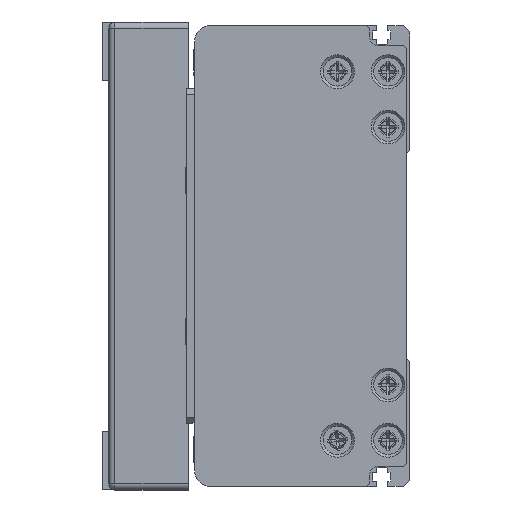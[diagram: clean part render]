
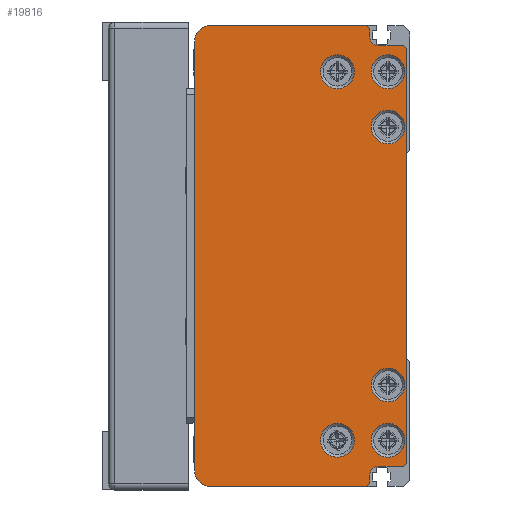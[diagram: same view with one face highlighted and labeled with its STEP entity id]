
A CAD part, left-side view. The second image highlights one B-rep face of the part: STEP entity #19816.
In plain terms, the highlighted planar face has unit normal (-1, 0, 0) as drawn and (0, 0, -1) by its records, which use the part's own axes.
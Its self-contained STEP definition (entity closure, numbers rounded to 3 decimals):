
#934=LINE('',#28642,#2599);
#935=LINE('',#28646,#2600);
#936=LINE('',#28648,#2601);
#937=LINE('',#28650,#2602);
#938=LINE('',#28654,#2603);
#939=LINE('',#28656,#2604);
#940=LINE('',#28658,#2605);
#941=LINE('',#28660,#2606);
#942=LINE('',#28662,#2607);
#943=LINE('',#28666,#2608);
#944=LINE('',#28668,#2609);
#945=LINE('',#28670,#2610);
#2599=VECTOR('',#23255,140.);
#2600=VECTOR('',#23258,51.);
#2601=VECTOR('',#23259,1.414);
#2602=VECTOR('',#23260,2.5);
#2603=VECTOR('',#23263,8.);
#2604=VECTOR('',#23264,1.414);
#2605=VECTOR('',#23265,135.);
#2606=VECTOR('',#23266,1.414);
#2607=VECTOR('',#23267,8.);
#2608=VECTOR('',#23270,2.5);
#2609=VECTOR('',#23271,1.414);
#2610=VECTOR('',#23272,51.);
#4217=PLANE('',#21174);
#4844=FACE_BOUND('',#6672,.T.);
#4845=FACE_BOUND('',#6673,.T.);
#4846=FACE_BOUND('',#6674,.T.);
#4847=FACE_BOUND('',#6675,.T.);
#4848=FACE_BOUND('',#6676,.T.);
#4849=FACE_BOUND('',#6677,.T.);
#5395=FACE_OUTER_BOUND('',#6671,.T.);
#6671=EDGE_LOOP('',(#13911,#13912,#13913,#13914,#13915,#13916,#13917,#13918,
#13919,#13920,#13921,#13922,#13923,#13924,#13925,#13926));
#6672=EDGE_LOOP('',(#13927));
#6673=EDGE_LOOP('',(#13928));
#6674=EDGE_LOOP('',(#13929));
#6675=EDGE_LOOP('',(#13930));
#6676=EDGE_LOOP('',(#13931));
#6677=EDGE_LOOP('',(#13932));
#8177=CIRCLE('',#21175,5.);
#8178=CIRCLE('',#21176,3.);
#8179=CIRCLE('',#21177,3.);
#8180=CIRCLE('',#21178,5.);
#8181=CIRCLE('',#21179,5.5);
#8182=CIRCLE('',#21180,5.5);
#8183=CIRCLE('',#21181,5.5);
#8184=CIRCLE('',#21182,5.5);
#8185=CIRCLE('',#21183,5.5);
#8186=CIRCLE('',#21184,5.5);
#8865=VERTEX_POINT('',#28640);
#8866=VERTEX_POINT('',#28641);
#8867=VERTEX_POINT('',#28643);
#8868=VERTEX_POINT('',#28645);
#8869=VERTEX_POINT('',#28647);
#8870=VERTEX_POINT('',#28649);
#8871=VERTEX_POINT('',#28651);
#8872=VERTEX_POINT('',#28653);
#8873=VERTEX_POINT('',#28655);
#8874=VERTEX_POINT('',#28657);
#8875=VERTEX_POINT('',#28659);
#8876=VERTEX_POINT('',#28661);
#8877=VERTEX_POINT('',#28663);
#8878=VERTEX_POINT('',#28665);
#8879=VERTEX_POINT('',#28667);
#8880=VERTEX_POINT('',#28669);
#8881=VERTEX_POINT('',#28672);
#8882=VERTEX_POINT('',#28674);
#8883=VERTEX_POINT('',#28676);
#8884=VERTEX_POINT('',#28678);
#8885=VERTEX_POINT('',#28680);
#8886=VERTEX_POINT('',#28682);
#10897=EDGE_CURVE('',#8865,#8866,#934,.T.);
#10898=EDGE_CURVE('',#8866,#8867,#8177,.T.);
#10899=EDGE_CURVE('',#8867,#8868,#935,.T.);
#10900=EDGE_CURVE('',#8868,#8869,#936,.T.);
#10901=EDGE_CURVE('',#8869,#8870,#937,.T.);
#10902=EDGE_CURVE('',#8870,#8871,#8178,.T.);
#10903=EDGE_CURVE('',#8871,#8872,#938,.T.);
#10904=EDGE_CURVE('',#8872,#8873,#939,.T.);
#10905=EDGE_CURVE('',#8873,#8874,#940,.T.);
#10906=EDGE_CURVE('',#8874,#8875,#941,.T.);
#10907=EDGE_CURVE('',#8875,#8876,#942,.T.);
#10908=EDGE_CURVE('',#8876,#8877,#8179,.T.);
#10909=EDGE_CURVE('',#8877,#8878,#943,.T.);
#10910=EDGE_CURVE('',#8878,#8879,#944,.T.);
#10911=EDGE_CURVE('',#8879,#8880,#945,.T.);
#10912=EDGE_CURVE('',#8880,#8865,#8180,.T.);
#10913=EDGE_CURVE('',#8881,#8881,#8181,.T.);
#10914=EDGE_CURVE('',#8882,#8882,#8182,.T.);
#10915=EDGE_CURVE('',#8883,#8883,#8183,.T.);
#10916=EDGE_CURVE('',#8884,#8884,#8184,.T.);
#10917=EDGE_CURVE('',#8885,#8885,#8185,.T.);
#10918=EDGE_CURVE('',#8886,#8886,#8186,.T.);
#13911=ORIENTED_EDGE('',*,*,#10897,.T.);
#13912=ORIENTED_EDGE('',*,*,#10898,.T.);
#13913=ORIENTED_EDGE('',*,*,#10899,.T.);
#13914=ORIENTED_EDGE('',*,*,#10900,.T.);
#13915=ORIENTED_EDGE('',*,*,#10901,.T.);
#13916=ORIENTED_EDGE('',*,*,#10902,.T.);
#13917=ORIENTED_EDGE('',*,*,#10903,.T.);
#13918=ORIENTED_EDGE('',*,*,#10904,.T.);
#13919=ORIENTED_EDGE('',*,*,#10905,.T.);
#13920=ORIENTED_EDGE('',*,*,#10906,.T.);
#13921=ORIENTED_EDGE('',*,*,#10907,.T.);
#13922=ORIENTED_EDGE('',*,*,#10908,.T.);
#13923=ORIENTED_EDGE('',*,*,#10909,.T.);
#13924=ORIENTED_EDGE('',*,*,#10910,.T.);
#13925=ORIENTED_EDGE('',*,*,#10911,.T.);
#13926=ORIENTED_EDGE('',*,*,#10912,.T.);
#13927=ORIENTED_EDGE('',*,*,#10913,.T.);
#13928=ORIENTED_EDGE('',*,*,#10914,.T.);
#13929=ORIENTED_EDGE('',*,*,#10915,.T.);
#13930=ORIENTED_EDGE('',*,*,#10916,.T.);
#13931=ORIENTED_EDGE('',*,*,#10917,.T.);
#13932=ORIENTED_EDGE('',*,*,#10918,.T.);
#19816=ADVANCED_FACE('',(#5395,#4844,#4845,#4846,#4847,#4848,#4849),#4217,
 .F.);
#21174=AXIS2_PLACEMENT_3D('',#28639,#23253,#23254);
#21175=AXIS2_PLACEMENT_3D('',#28644,#23256,#23257);
#21176=AXIS2_PLACEMENT_3D('',#28652,#23261,#23262);
#21177=AXIS2_PLACEMENT_3D('',#28664,#23268,#23269);
#21178=AXIS2_PLACEMENT_3D('',#28671,#23273,#23274);
#21179=AXIS2_PLACEMENT_3D('',#28673,#23275,#23276);
#21180=AXIS2_PLACEMENT_3D('',#28675,#23277,#23278);
#21181=AXIS2_PLACEMENT_3D('',#28677,#23279,#23280);
#21182=AXIS2_PLACEMENT_3D('',#28679,#23281,#23282);
#21183=AXIS2_PLACEMENT_3D('',#28681,#23283,#23284);
#21184=AXIS2_PLACEMENT_3D('',#28683,#23285,#23286);
#23253=DIRECTION('center_axis',(0.,0.,
1.));
#23254=DIRECTION('ref_axis',(1.,0.,0.));
#23255=DIRECTION('',(1.,0.,0.));
#23256=DIRECTION('center_axis',(0.,0.,
-1.));
#23257=DIRECTION('ref_axis',(-1.,0.,0.));
#23258=DIRECTION('',(0.,-1.,0.));
#23259=DIRECTION('',(-0.707,-0.707,0.));
#23260=DIRECTION('',(-1.,0.,0.));
#23261=DIRECTION('center_axis',(0.,0.,
1.));
#23262=DIRECTION('ref_axis',(0.,1.,0.));
#23263=DIRECTION('',(0.,-1.,0.));
#23264=DIRECTION('',(-0.707,-0.707,0.));
#23265=DIRECTION('',(-1.,0.,0.));
#23266=DIRECTION('',(-0.707,0.707,0.));
#23267=DIRECTION('',(0.,1.,0.));
#23268=DIRECTION('center_axis',(0.,0.,
1.));
#23269=DIRECTION('ref_axis',(1.,0.,0.));
#23270=DIRECTION('',(-1.,0.,0.));
#23271=DIRECTION('',(-0.707,0.707,0.));
#23272=DIRECTION('',(0.,1.,0.));
#23273=DIRECTION('center_axis',(0.,0.,
-1.));
#23274=DIRECTION('ref_axis',(0.,-1.,0.));
#23275=DIRECTION('center_axis',(0.,0.,
1.));
#23276=DIRECTION('ref_axis',(-1.,0.,0.));
#23277=DIRECTION('center_axis',(0.,0.,
1.));
#23278=DIRECTION('ref_axis',(-1.,0.,0.));
#23279=DIRECTION('center_axis',(0.,0.,
1.));
#23280=DIRECTION('ref_axis',(-1.,0.,0.));
#23281=DIRECTION('center_axis',(0.,0.,
1.));
#23282=DIRECTION('ref_axis',(-1.,0.,0.));
#23283=DIRECTION('center_axis',(0.,0.,
1.));
#23284=DIRECTION('ref_axis',(-1.,0.,0.));
#23285=DIRECTION('center_axis',(0.,0.,
1.));
#23286=DIRECTION('ref_axis',(-1.,0.,0.));
#28639=CARTESIAN_POINT('Origin',(0.25,38.047,-1069.));
#28640=CARTESIAN_POINT('',(-69.75,72.25,-1069.));
#28641=CARTESIAN_POINT('',(70.25,72.25,-1069.));
#28642=CARTESIAN_POINT('',(-69.75,72.25,-1069.));
#28643=CARTESIAN_POINT('',(75.25,67.25,-1069.));
#28644=CARTESIAN_POINT('Origin',(70.25,67.25,-1069.));
#28645=CARTESIAN_POINT('',(75.25,16.25,-1069.));
#28646=CARTESIAN_POINT('',(75.25,67.25,-1069.));
#28647=CARTESIAN_POINT('',(74.25,15.25,-1069.));
#28648=CARTESIAN_POINT('',(75.25,16.25,-1069.));
#28649=CARTESIAN_POINT('',(71.75,15.25,-1069.));
#28650=CARTESIAN_POINT('',(74.25,15.25,-1069.));
#28651=CARTESIAN_POINT('',(68.75,12.25,-1069.));
#28652=CARTESIAN_POINT('Origin',(71.75,12.25,-1069.));
#28653=CARTESIAN_POINT('',(68.75,4.25,-1069.));
#28654=CARTESIAN_POINT('',(68.75,12.25,-1069.));
#28655=CARTESIAN_POINT('',(67.75,3.25,-1069.));
#28656=CARTESIAN_POINT('',(68.75,4.25,-1069.));
#28657=CARTESIAN_POINT('',(-67.25,3.25,-1069.));
#28658=CARTESIAN_POINT('',(67.75,3.25,-1069.));
#28659=CARTESIAN_POINT('',(-68.25,4.25,-1069.));
#28660=CARTESIAN_POINT('',(-67.25,3.25,-1069.));
#28661=CARTESIAN_POINT('',(-68.25,12.25,-1069.));
#28662=CARTESIAN_POINT('',(-68.25,4.25,-1069.));
#28663=CARTESIAN_POINT('',(-71.25,15.25,-1069.));
#28664=CARTESIAN_POINT('Origin',(-71.25,12.25,-1069.));
#28665=CARTESIAN_POINT('',(-73.75,15.25,-1069.));
#28666=CARTESIAN_POINT('',(-71.25,15.25,-1069.));
#28667=CARTESIAN_POINT('',(-74.75,16.25,-1069.));
#28668=CARTESIAN_POINT('',(-73.75,15.25,-1069.));
#28669=CARTESIAN_POINT('',(-74.75,67.25,-1069.));
#28670=CARTESIAN_POINT('',(-74.75,16.25,-1069.));
#28671=CARTESIAN_POINT('Origin',(-69.75,67.25,-1069.));
#28672=CARTESIAN_POINT('',(-47.25,9.25,-1069.));
#28673=CARTESIAN_POINT('Origin',(-41.75,9.25,-1069.));
#28674=CARTESIAN_POINT('',(36.75,9.25,-1069.));
#28675=CARTESIAN_POINT('Origin',(42.25,9.25,-1069.));
#28676=CARTESIAN_POINT('',(-65.25,25.75,-1069.));
#28677=CARTESIAN_POINT('Origin',(-59.75,25.75,-1069.));
#28678=CARTESIAN_POINT('',(54.75,25.75,-1069.));
#28679=CARTESIAN_POINT('Origin',(60.25,25.75,-1069.));
#28680=CARTESIAN_POINT('',(-65.25,9.25,-1069.));
#28681=CARTESIAN_POINT('Origin',(-59.75,9.25,-1069.));
#28682=CARTESIAN_POINT('',(54.75,9.25,-1069.));
#28683=CARTESIAN_POINT('Origin',(60.25,9.25,-1069.));
